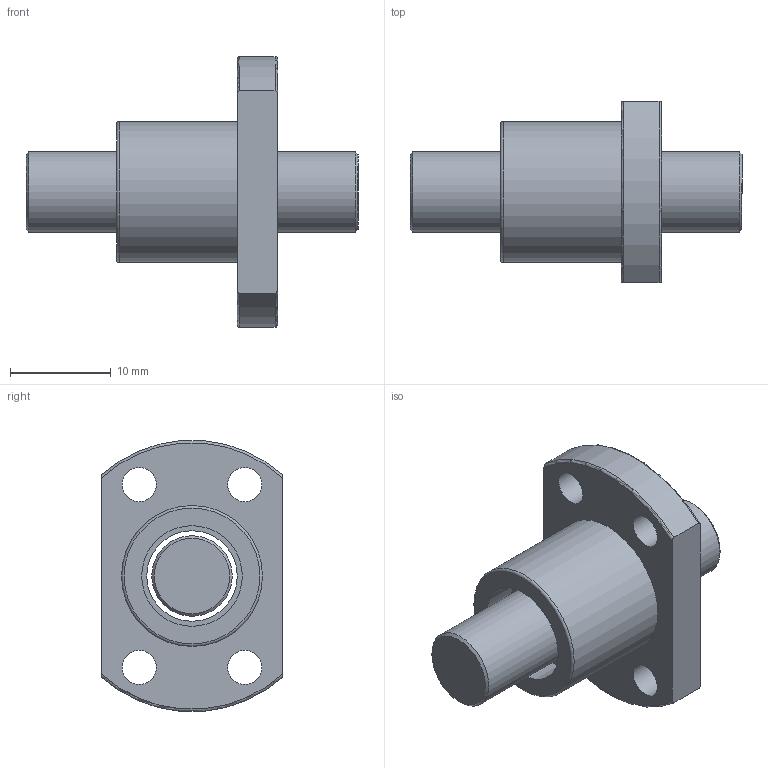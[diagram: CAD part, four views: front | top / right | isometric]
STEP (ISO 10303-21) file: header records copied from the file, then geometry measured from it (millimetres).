
FILE_DESCRIPTION(/* description */ (''),/* implementation_level */ '2;1');
FILE_NAME(/* name */ 'SFK0802',/* time_stamp */ '2007-10-26T10:39:47+08:00',/* author */ (''),/* organization */ (''),/* preprocessor_version */ 'ST-DEVELOPER v9',/* originating_system */ 'EDS PLM SOLUTIONS - UNIGRAPHICS NX 1.0',/* authorisation */ '');
FILE_SCHEMA (('CONFIG_CONTROL_DESIGN'));
Length unit declared in the file: millimetre
Products named in the file (1): FANNDA0400c9
Bounding box: 33 x 18 x 26.91 mm (x, y, z)
Volume: 4026.7 mm3; surface area: 3094.5 mm2
Topology: 2 solids, 2 shells, 27 faces, 57 edges, 37 vertices
Faces by surface type: cylinder 11, plane 9, torus 5, cone 2
Full cylindrical faces by diameter (mm): 3.4 x4, 8 x1, 9 x1, 10 x2, 14 x1
Entity records: 908 total; most frequent: CARTESIAN_POINT 254, DIRECTION 122, ORIENTED_EDGE 90, AXIS2_PLACEMENT_3D 57, EDGE_LOOP 52, EDGE_CURVE 45, VERTEX_POINT 37, FACE_BOUND 35
